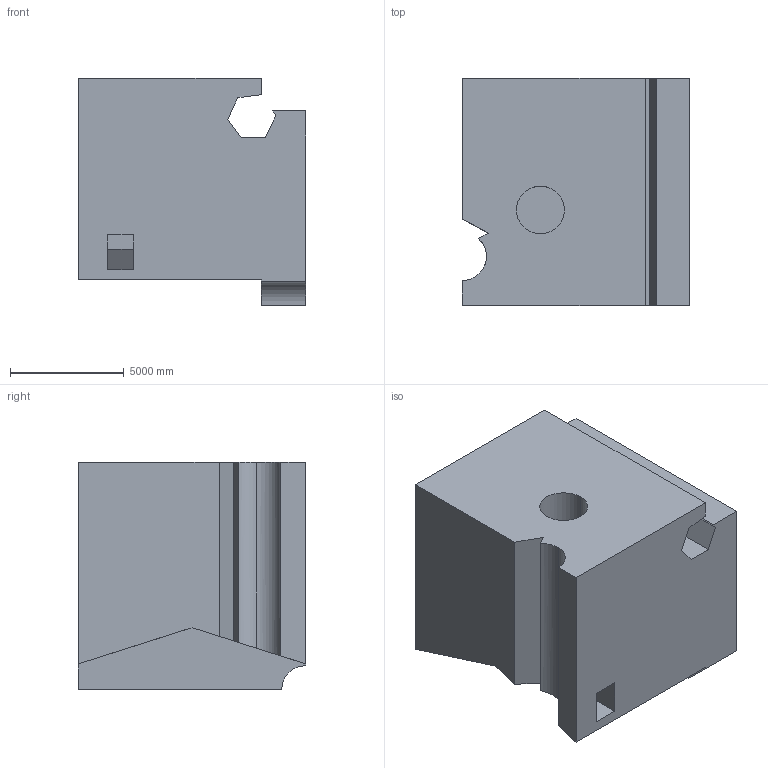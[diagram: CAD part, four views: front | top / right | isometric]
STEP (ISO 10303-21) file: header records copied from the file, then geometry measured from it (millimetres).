
FILE_DESCRIPTION (( 'STEP AP203' ), '1' );
FILE_NAME ('1889.STEP', '2022-08-19T14:00:22', ( 'user' ), ( '' ), 'SwSTEP 2.0', 'SolidWorks 2021', '' );
FILE_SCHEMA (( 'CONFIG_CONTROL_DESIGN' ));
Length unit declared in the file: centimetre
Products named in the file (1): 1889
Bounding box: 10000 x 10000 x 10000 mm (x, y, z)
Volume: 744068670114.4 mm3; surface area: 660600777.3 mm2
Topology: 1 solids, 1 shells, 35 faces, 99 edges, 66 vertices
Faces by surface type: plane 28, cylinder 7
Entity records: 1206 total; most frequent: CARTESIAN_POINT 207, ORIENTED_EDGE 198, DIRECTION 181, EDGE_CURVE 99, VECTOR 85, LINE 85, VERTEX_POINT 66, AXIS2_PLACEMENT_3D 48
